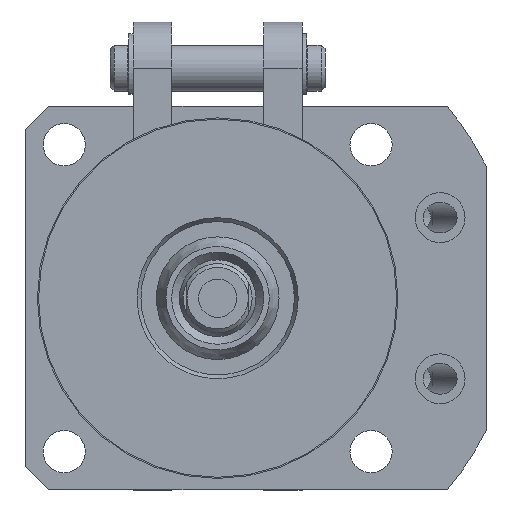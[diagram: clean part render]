
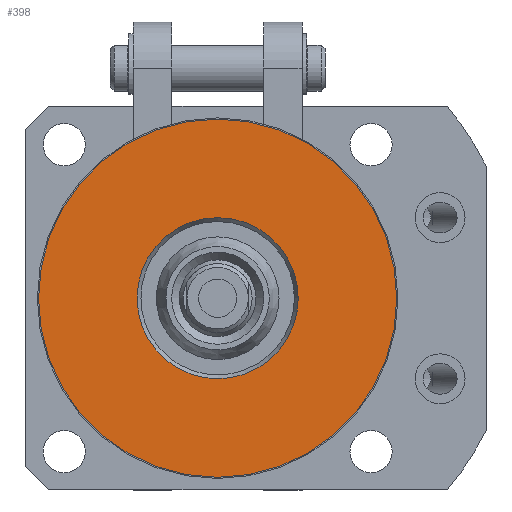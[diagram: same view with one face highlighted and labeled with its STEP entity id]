
A CAD part, front view. The second image highlights one B-rep face of the part: STEP entity #398.
In plain terms, the highlighted planar face has unit normal (0, -1, 0).
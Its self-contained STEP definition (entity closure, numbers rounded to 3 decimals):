
#398 = ADVANCED_FACE( '', ( #817, #818 ), #819, .T. );
#817 = FACE_OUTER_BOUND( '', #1546, .T. );
#818 = FACE_BOUND( '', #1547, .T. );
#819 = PLANE( '', #1548 );
#1546 = EDGE_LOOP( '', ( #2589 ) );
#1547 = EDGE_LOOP( '', ( #2590 ) );
#1548 = AXIS2_PLACEMENT_3D( '', #2591, #2592, #2593 );
#2589 = ORIENTED_EDGE( '', *, *, #4531, .T. );
#2590 = ORIENTED_EDGE( '', *, *, #4534, .F. );
#2591 = CARTESIAN_POINT( '', ( 0., -47., 0. ) );
#2592 = DIRECTION( '', ( 0., -1., 0. ) );
#2593 = DIRECTION( '', ( 1., 0., 0. ) );
#4531 = EDGE_CURVE( '', #5372, #5372, #5373, .T. );
#4534 = EDGE_CURVE( '', #5378, #5378, #5379, .T. );
#5372 = VERTEX_POINT( '', #6839 );
#5373 = CIRCLE( '', #6840, 23.35 );
#5378 = VERTEX_POINT( '', #6845 );
#5379 = CIRCLE( '', #6846, 10.5 );
#6839 = CARTESIAN_POINT( '', ( -23.35, -47., 0. ) );
#6840 = AXIS2_PLACEMENT_3D( '', #8278, #8279, #8280 );
#6845 = CARTESIAN_POINT( '', ( 0., -47., 10.5 ) );
#6846 = AXIS2_PLACEMENT_3D( '', #8287, #8288, #8289 );
#8278 = CARTESIAN_POINT( '', ( 0., -47., 0. ) );
#8279 = DIRECTION( '', ( 0., -1., 0. ) );
#8280 = DIRECTION( '', ( -1., 0., 0. ) );
#8287 = CARTESIAN_POINT( '', ( 0., -47., 0. ) );
#8288 = DIRECTION( '', ( 0., -1., 0. ) );
#8289 = DIRECTION( '', ( 0., 0., 1. ) );
